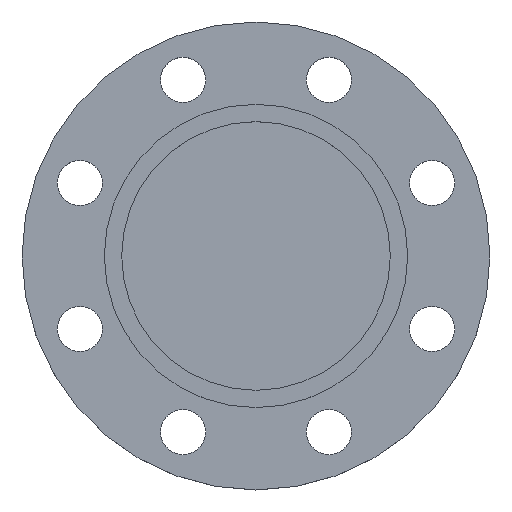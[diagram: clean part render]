
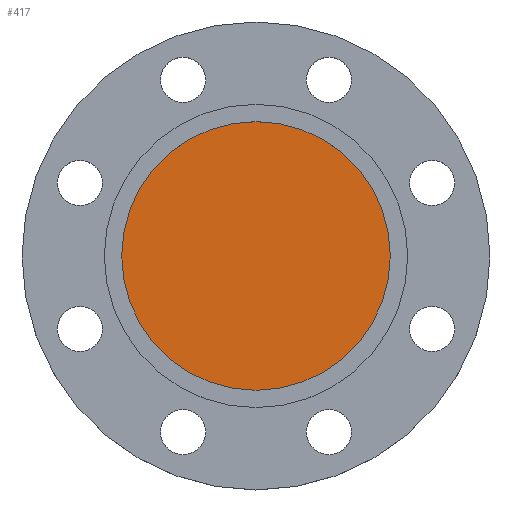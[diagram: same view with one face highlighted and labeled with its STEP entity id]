
A CAD part, top view. The second image highlights one B-rep face of the part: STEP entity #417.
In plain terms, the highlighted planar face has unit normal (0, 0, 1).
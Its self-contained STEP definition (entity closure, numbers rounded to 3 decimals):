
#83 = DIRECTION ( 'NONE',  ( -1., 0., 0. ) ) ;
#84 = DIRECTION ( 'NONE',  ( 0., 0., -1. ) ) ;
#85 = CARTESIAN_POINT ( 'NONE',  ( 0., 0., -5. ) ) ;
#311 = DIRECTION ( 'NONE',  ( -1., 0., 0. ) ) ;
#312 = DIRECTION ( 'NONE',  ( 0., 0., -1. ) ) ;
#314 = CARTESIAN_POINT ( 'NONE',  ( 0., 0., -5. ) ) ;
#361 = CARTESIAN_POINT ( 'NONE',  ( -77.5, 0., -5. ) ) ;
#394 = DIRECTION ( 'NONE',  ( 1., 0., 0. ) ) ;
#396 = DIRECTION ( 'NONE',  ( 0., 0., 1. ) ) ;
#398 = CARTESIAN_POINT ( 'NONE',  ( 77.5, 0., -5. ) ) ;
#399 = PLANE ( 'NONE',  #685 ) ;
#403 = FACE_OUTER_BOUND ( 'NONE', #577, .T. ) ;
#417 = ADVANCED_FACE ( 'NONE', ( #403 ), #399, .T. ) ;
#478 = VERTEX_POINT ( 'NONE', #361 ) ;
#488 = CIRCLE ( 'NONE', #873, 77.5 ) ;
#489 = CARTESIAN_POINT ( 'NONE',  ( 77.5, 0., -5. ) ) ;
#516 = EDGE_CURVE ( 'NONE', #478, #992, #488, .T. ) ;
#577 = EDGE_LOOP ( 'NONE', ( #1079, #1080 ) ) ;
#619 = AXIS2_PLACEMENT_3D ( 'NONE', #85, #84, #83 ) ;
#620 = CIRCLE ( 'NONE', #619, 77.5 ) ;
#685 = AXIS2_PLACEMENT_3D ( 'NONE', #398, #396, #394 ) ;
#872 = EDGE_CURVE ( 'NONE', #992, #478, #620, .T. ) ;
#873 = AXIS2_PLACEMENT_3D ( 'NONE', #314, #312, #311 ) ;
#992 = VERTEX_POINT ( 'NONE', #489 ) ;
#1079 = ORIENTED_EDGE ( 'NONE', *, *, #516, .F. ) ;
#1080 = ORIENTED_EDGE ( 'NONE', *, *, #872, .F. ) ;
